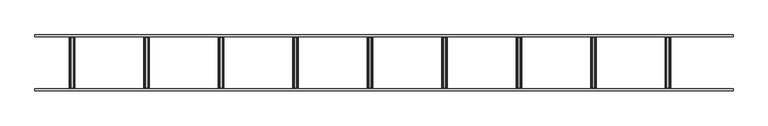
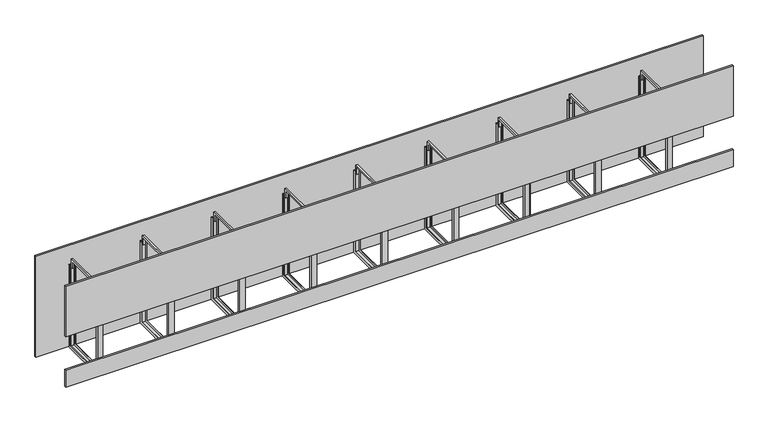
"""IFC4 building model written with IfcOpenShell, lengths in millimetres: proxy geometry, Betobeam PG : -."""

from ifc_helpers import new_model, si_unit, frame, origin, origin_with_axes, place, context, project, spatial, polyline, outline, extrude, faceted_brep, source, transform, mapped, element, save


def generic_models_2febcc6a(model_context):
    return source(origin(), model_context, "Body", "SolidModel", [
        extrude(outline(polyline([(285.0, 520.0), (285.0, 470.0), (275.0, 470.0), (275.0, 510.0), (25.0, 510.0), (25.0, 470.0), (15.0, 470.0), (15.0, 520.0), (285.0, 520.0)])), frame((3395.0, 0.0, 0.0), z_axis=(1.0, 0.0, 0.0), x_axis=(0.0, 1.0, 0.0)), (0.0, 0.0, 1.0), 10.0),
        faceted_brep([(3385.0, 290.0, 490.0), (3385.0, 275.0, 490.0), (3387.0, 275.0, 490.0), (3387.0, 288.0, 490.0), (3413.0, 288.0, 490.0), (3413.0, 275.0, 490.0), (3415.0, 275.0, 490.0), (3415.0, 290.0, 490.0), (3385.0, 290.0, 0.0), (3385.0, 10.0, 0.0), (3385.0, 10.0, 490.0), (3385.0, 25.0, 490.0), (3385.0, 25.0, 15.0), (3385.0, 275.0, 15.0), (3387.0, 275.0, 15.0), (3387.0, 25.0, 15.0), (3387.0, 25.0, 490.0), (3387.0, 12.0, 490.0), (3387.0, 12.0, 2.0), (3387.0, 288.0, 2.0), (3413.0, 288.0, 2.0), (3413.0, 12.0, 2.0), (3413.0, 12.0, 490.0), (3413.0, 25.0, 490.0), (3413.0, 25.0, 15.0), (3413.0, 275.0, 15.0), (3415.0, 275.0, 15.0), (3415.0, 25.0, 15.0), (3415.0, 25.0, 490.0), (3415.0, 10.0, 490.0), (3415.0, 10.0, 0.0), (3415.0, 290.0, 0.0)], [[[0, 1, 2, 3, 4, 5, 6, 7]], [[1, 0, 8, 9, 10, 11, 12, 13]], [[2, 1, 13, 14]], [[3, 2, 14, 15, 16, 17, 18, 19]], [[4, 3, 19, 20]], [[5, 4, 20, 21, 22, 23, 24, 25]], [[6, 5, 25, 26]], [[7, 6, 26, 27, 28, 29, 30, 31]], [[0, 7, 31, 8]], [[14, 13, 12, 15]], [[20, 19, 18, 21]], [[26, 25, 24, 27]], [[8, 31, 30, 9]], [[10, 29, 28, 23, 22, 17, 16, 11]], [[15, 12, 11, 16]], [[21, 18, 17, 22]], [[27, 24, 23, 28]], [[9, 30, 29, 10]]]),
        extrude(outline(polyline([(285.0, 520.0), (285.0, 470.0), (275.0, 470.0), (275.0, 510.0), (25.0, 510.0), (25.0, 470.0), (15.0, 470.0), (15.0, 520.0), (285.0, 520.0)])), frame((2995.0, 0.0, 0.0), z_axis=(1.0, 0.0, 0.0), x_axis=(0.0, 1.0, 0.0)), (0.0, 0.0, 1.0), 10.0),
        faceted_brep([(2985.0, 290.0, 490.0), (2985.0, 275.0, 490.0), (2987.0, 275.0, 490.0), (2987.0, 288.0, 490.0), (3013.0, 288.0, 490.0), (3013.0, 275.0, 490.0), (3015.0, 275.0, 490.0), (3015.0, 290.0, 490.0), (2985.0, 290.0, 0.0), (2985.0, 10.0, 0.0), (2985.0, 10.0, 490.0), (2985.0, 25.0, 490.0), (2985.0, 25.0, 15.0), (2985.0, 275.0, 15.0), (2987.0, 275.0, 15.0), (2987.0, 25.0, 15.0), (2987.0, 25.0, 490.0), (2987.0, 12.0, 490.0), (2987.0, 12.0, 2.0), (2987.0, 288.0, 2.0), (3013.0, 288.0, 2.0), (3013.0, 12.0, 2.0), (3013.0, 12.0, 490.0), (3013.0, 25.0, 490.0), (3013.0, 25.0, 15.0), (3013.0, 275.0, 15.0), (3015.0, 275.0, 15.0), (3015.0, 25.0, 15.0), (3015.0, 25.0, 490.0), (3015.0, 10.0, 490.0), (3015.0, 10.0, 0.0), (3015.0, 290.0, 0.0)], [[[0, 1, 2, 3, 4, 5, 6, 7]], [[1, 0, 8, 9, 10, 11, 12, 13]], [[2, 1, 13, 14]], [[3, 2, 14, 15, 16, 17, 18, 19]], [[4, 3, 19, 20]], [[5, 4, 20, 21, 22, 23, 24, 25]], [[6, 5, 25, 26]], [[7, 6, 26, 27, 28, 29, 30, 31]], [[0, 7, 31, 8]], [[14, 13, 12, 15]], [[20, 19, 18, 21]], [[26, 25, 24, 27]], [[8, 31, 30, 9]], [[10, 29, 28, 23, 22, 17, 16, 11]], [[15, 12, 11, 16]], [[21, 18, 17, 22]], [[27, 24, 23, 28]], [[9, 30, 29, 10]]]),
        extrude(outline(polyline([(285.0, 520.0), (285.0, 470.0), (275.0, 470.0), (275.0, 510.0), (25.0, 510.0), (25.0, 470.0), (15.0, 470.0), (15.0, 520.0), (285.0, 520.0)])), frame((2595.0, 0.0, 0.0), z_axis=(1.0, 0.0, 0.0), x_axis=(0.0, 1.0, 0.0)), (0.0, 0.0, 1.0), 10.0),
        faceted_brep([(2585.0, 290.0, 490.0), (2585.0, 275.0, 490.0), (2587.0, 275.0, 490.0), (2587.0, 288.0, 490.0), (2613.0, 288.0, 490.0), (2613.0, 275.0, 490.0), (2615.0, 275.0, 490.0), (2615.0, 290.0, 490.0), (2585.0, 290.0, 0.0), (2585.0, 10.0, 0.0), (2585.0, 10.0, 490.0), (2585.0, 25.0, 490.0), (2585.0, 25.0, 15.0), (2585.0, 275.0, 15.0), (2587.0, 275.0, 15.0), (2587.0, 25.0, 15.0), (2587.0, 25.0, 490.0), (2587.0, 12.0, 490.0), (2587.0, 12.0, 2.0), (2587.0, 288.0, 2.0), (2613.0, 288.0, 2.0), (2613.0, 12.0, 2.0), (2613.0, 12.0, 490.0), (2613.0, 25.0, 490.0), (2613.0, 25.0, 15.0), (2613.0, 275.0, 15.0), (2615.0, 275.0, 15.0), (2615.0, 25.0, 15.0), (2615.0, 25.0, 490.0), (2615.0, 10.0, 490.0), (2615.0, 10.0, 0.0), (2615.0, 290.0, 0.0)], [[[0, 1, 2, 3, 4, 5, 6, 7]], [[1, 0, 8, 9, 10, 11, 12, 13]], [[2, 1, 13, 14]], [[3, 2, 14, 15, 16, 17, 18, 19]], [[4, 3, 19, 20]], [[5, 4, 20, 21, 22, 23, 24, 25]], [[6, 5, 25, 26]], [[7, 6, 26, 27, 28, 29, 30, 31]], [[0, 7, 31, 8]], [[14, 13, 12, 15]], [[20, 19, 18, 21]], [[26, 25, 24, 27]], [[8, 31, 30, 9]], [[10, 29, 28, 23, 22, 17, 16, 11]], [[15, 12, 11, 16]], [[21, 18, 17, 22]], [[27, 24, 23, 28]], [[9, 30, 29, 10]]]),
        extrude(outline(polyline([(285.0, 520.0), (285.0, 470.0), (275.0, 470.0), (275.0, 510.0), (25.0, 510.0), (25.0, 470.0), (15.0, 470.0), (15.0, 520.0), (285.0, 520.0)])), frame((2195.0, 0.0, 0.0), z_axis=(1.0, 0.0, 0.0), x_axis=(0.0, 1.0, 0.0)), (0.0, 0.0, 1.0), 10.0),
        faceted_brep([(2185.0, 290.0, 490.0), (2185.0, 275.0, 490.0), (2187.0, 275.0, 490.0), (2187.0, 288.0, 490.0), (2213.0, 288.0, 490.0), (2213.0, 275.0, 490.0), (2215.0, 275.0, 490.0), (2215.0, 290.0, 490.0), (2185.0, 290.0, 0.0), (2185.0, 10.0, 0.0), (2185.0, 10.0, 490.0), (2185.0, 25.0, 490.0), (2185.0, 25.0, 15.0), (2185.0, 275.0, 15.0), (2187.0, 275.0, 15.0), (2187.0, 25.0, 15.0), (2187.0, 25.0, 490.0), (2187.0, 12.0, 490.0), (2187.0, 12.0, 2.0), (2187.0, 288.0, 2.0), (2213.0, 288.0, 2.0), (2213.0, 12.0, 2.0), (2213.0, 12.0, 490.0), (2213.0, 25.0, 490.0), (2213.0, 25.0, 15.0), (2213.0, 275.0, 15.0), (2215.0, 275.0, 15.0), (2215.0, 25.0, 15.0), (2215.0, 25.0, 490.0), (2215.0, 10.0, 490.0), (2215.0, 10.0, 0.0), (2215.0, 290.0, 0.0)], [[[0, 1, 2, 3, 4, 5, 6, 7]], [[1, 0, 8, 9, 10, 11, 12, 13]], [[2, 1, 13, 14]], [[3, 2, 14, 15, 16, 17, 18, 19]], [[4, 3, 19, 20]], [[5, 4, 20, 21, 22, 23, 24, 25]], [[6, 5, 25, 26]], [[7, 6, 26, 27, 28, 29, 30, 31]], [[0, 7, 31, 8]], [[14, 13, 12, 15]], [[20, 19, 18, 21]], [[26, 25, 24, 27]], [[8, 31, 30, 9]], [[10, 29, 28, 23, 22, 17, 16, 11]], [[15, 12, 11, 16]], [[21, 18, 17, 22]], [[27, 24, 23, 28]], [[9, 30, 29, 10]]]),
        extrude(outline(polyline([(285.0, 520.0), (285.0, 470.0), (275.0, 470.0), (275.0, 510.0), (25.0, 510.0), (25.0, 470.0), (15.0, 470.0), (15.0, 520.0), (285.0, 520.0)])), frame((1795.0, 0.0, 0.0), z_axis=(1.0, 0.0, 0.0), x_axis=(0.0, 1.0, 0.0)), (0.0, 0.0, 1.0), 10.0),
        faceted_brep([(1785.0, 290.0, 490.0), (1785.0, 275.0, 490.0), (1787.0, 275.0, 490.0), (1787.0, 288.0, 490.0), (1813.0, 288.0, 490.0), (1813.0, 275.0, 490.0), (1815.0, 275.0, 490.0), (1815.0, 290.0, 490.0), (1785.0, 290.0, 0.0), (1785.0, 10.0, 0.0), (1785.0, 10.0, 490.0), (1785.0, 25.0, 490.0), (1785.0, 25.0, 15.0), (1785.0, 275.0, 15.0), (1787.0, 275.0, 15.0), (1787.0, 25.0, 15.0), (1787.0, 25.0, 490.0), (1787.0, 12.0, 490.0), (1787.0, 12.0, 2.0), (1787.0, 288.0, 2.0), (1813.0, 288.0, 2.0), (1813.0, 12.0, 2.0), (1813.0, 12.0, 490.0), (1813.0, 25.0, 490.0), (1813.0, 25.0, 15.0), (1813.0, 275.0, 15.0), (1815.0, 275.0, 15.0), (1815.0, 25.0, 15.0), (1815.0, 25.0, 490.0), (1815.0, 10.0, 490.0), (1815.0, 10.0, 0.0), (1815.0, 290.0, 0.0)], [[[0, 1, 2, 3, 4, 5, 6, 7]], [[1, 0, 8, 9, 10, 11, 12, 13]], [[2, 1, 13, 14]], [[3, 2, 14, 15, 16, 17, 18, 19]], [[4, 3, 19, 20]], [[5, 4, 20, 21, 22, 23, 24, 25]], [[6, 5, 25, 26]], [[7, 6, 26, 27, 28, 29, 30, 31]], [[0, 7, 31, 8]], [[14, 13, 12, 15]], [[20, 19, 18, 21]], [[26, 25, 24, 27]], [[8, 31, 30, 9]], [[10, 29, 28, 23, 22, 17, 16, 11]], [[15, 12, 11, 16]], [[21, 18, 17, 22]], [[27, 24, 23, 28]], [[9, 30, 29, 10]]]),
        extrude(outline(polyline([(285.0, 520.0), (285.0, 470.0), (275.0, 470.0), (275.0, 510.0), (25.0, 510.0), (25.0, 470.0), (15.0, 470.0), (15.0, 520.0), (285.0, 520.0)])), frame((1395.0, 0.0, 0.0), z_axis=(1.0, 0.0, 0.0), x_axis=(0.0, 1.0, 0.0)), (0.0, 0.0, 1.0), 10.0),
        faceted_brep([(1385.0, 290.0, 490.0), (1385.0, 275.0, 490.0), (1387.0, 275.0, 490.0), (1387.0, 288.0, 490.0), (1413.0, 288.0, 490.0), (1413.0, 275.0, 490.0), (1415.0, 275.0, 490.0), (1415.0, 290.0, 490.0), (1385.0, 290.0, 0.0), (1385.0, 10.0, 0.0), (1385.0, 10.0, 490.0), (1385.0, 25.0, 490.0), (1385.0, 25.0, 15.0), (1385.0, 275.0, 15.0), (1387.0, 275.0, 15.0), (1387.0, 25.0, 15.0), (1387.0, 25.0, 490.0), (1387.0, 12.0, 490.0), (1387.0, 12.0, 2.0), (1387.0, 288.0, 2.0), (1413.0, 288.0, 2.0), (1413.0, 12.0, 2.0), (1413.0, 12.0, 490.0), (1413.0, 25.0, 490.0), (1413.0, 25.0, 15.0), (1413.0, 275.0, 15.0), (1415.0, 275.0, 15.0), (1415.0, 25.0, 15.0), (1415.0, 25.0, 490.0), (1415.0, 10.0, 490.0), (1415.0, 10.0, 0.0), (1415.0, 290.0, 0.0)], [[[0, 1, 2, 3, 4, 5, 6, 7]], [[1, 0, 8, 9, 10, 11, 12, 13]], [[2, 1, 13, 14]], [[3, 2, 14, 15, 16, 17, 18, 19]], [[4, 3, 19, 20]], [[5, 4, 20, 21, 22, 23, 24, 25]], [[6, 5, 25, 26]], [[7, 6, 26, 27, 28, 29, 30, 31]], [[0, 7, 31, 8]], [[14, 13, 12, 15]], [[20, 19, 18, 21]], [[26, 25, 24, 27]], [[8, 31, 30, 9]], [[10, 29, 28, 23, 22, 17, 16, 11]], [[15, 12, 11, 16]], [[21, 18, 17, 22]], [[27, 24, 23, 28]], [[9, 30, 29, 10]]]),
        extrude(outline(polyline([(285.0, 520.0), (285.0, 470.0), (275.0, 470.0), (275.0, 510.0), (25.0, 510.0), (25.0, 470.0), (15.0, 470.0), (15.0, 520.0), (285.0, 520.0)])), frame((995.0, 0.0, 0.0), z_axis=(1.0, 0.0, 0.0), x_axis=(0.0, 1.0, 0.0)), (0.0, 0.0, 1.0), 10.0),
        faceted_brep([(985.0, 290.0, 490.0), (985.0, 275.0, 490.0), (987.0, 275.0, 490.0), (987.0, 288.0, 490.0), (1013.0, 288.0, 490.0), (1013.0, 275.0, 490.0), (1015.0, 275.0, 490.0), (1015.0, 290.0, 490.0), (985.0, 290.0, 0.0), (985.0, 10.0, 0.0), (985.0, 10.0, 490.0), (985.0, 25.0, 490.0), (985.0, 25.0, 15.0), (985.0, 275.0, 15.0), (987.0, 275.0, 15.0), (987.0, 25.0, 15.0), (987.0, 25.0, 490.0), (987.0, 12.0, 490.0), (987.0, 12.0, 2.0), (987.0, 288.0, 2.0), (1013.0, 288.0, 2.0), (1013.0, 12.0, 2.0), (1013.0, 12.0, 490.0), (1013.0, 25.0, 490.0), (1013.0, 25.0, 15.0), (1013.0, 275.0, 15.0), (1015.0, 275.0, 15.0), (1015.0, 25.0, 15.0), (1015.0, 25.0, 490.0), (1015.0, 10.0, 490.0), (1015.0, 10.0, 0.0), (1015.0, 290.0, 0.0)], [[[0, 1, 2, 3, 4, 5, 6, 7]], [[1, 0, 8, 9, 10, 11, 12, 13]], [[2, 1, 13, 14]], [[3, 2, 14, 15, 16, 17, 18, 19]], [[4, 3, 19, 20]], [[5, 4, 20, 21, 22, 23, 24, 25]], [[6, 5, 25, 26]], [[7, 6, 26, 27, 28, 29, 30, 31]], [[0, 7, 31, 8]], [[14, 13, 12, 15]], [[20, 19, 18, 21]], [[26, 25, 24, 27]], [[8, 31, 30, 9]], [[10, 29, 28, 23, 22, 17, 16, 11]], [[15, 12, 11, 16]], [[21, 18, 17, 22]], [[27, 24, 23, 28]], [[9, 30, 29, 10]]]),
        extrude(outline(polyline([(285.0, 520.0), (285.0, 470.0), (275.0, 470.0), (275.0, 510.0), (25.0, 510.0), (25.0, 470.0), (15.0, 470.0), (15.0, 520.0), (285.0, 520.0)])), frame((595.0, 0.0, 0.0), z_axis=(1.0, 0.0, 0.0), x_axis=(0.0, 1.0, 0.0)), (0.0, 0.0, 1.0), 10.0),
        faceted_brep([(585.0, 290.0, 490.0), (585.0, 275.0, 490.0), (587.0, 275.0, 490.0), (587.0, 288.0, 490.0), (613.0, 288.0, 490.0), (613.0, 275.0, 490.0), (615.0, 275.0, 490.0), (615.0, 290.0, 490.0), (585.0, 290.0, 0.0), (585.0, 10.0, 0.0), (585.0, 10.0, 490.0), (585.0, 25.0, 490.0), (585.0, 25.0, 15.0), (585.0, 275.0, 15.0), (587.0, 275.0, 15.0), (587.0, 25.0, 15.0), (587.0, 25.0, 490.0), (587.0, 12.0, 490.0), (587.0, 12.0, 2.0), (587.0, 288.0, 2.0), (613.0, 288.0, 2.0), (613.0, 12.0, 2.0), (613.0, 12.0, 490.0), (613.0, 25.0, 490.0), (613.0, 25.0, 15.0), (613.0, 275.0, 15.0), (615.0, 275.0, 15.0), (615.0, 25.0, 15.0), (615.0, 25.0, 490.0), (615.0, 10.0, 490.0), (615.0, 10.0, 0.0), (615.0, 290.0, 0.0)], [[[0, 1, 2, 3, 4, 5, 6, 7]], [[1, 0, 8, 9, 10, 11, 12, 13]], [[2, 1, 13, 14]], [[3, 2, 14, 15, 16, 17, 18, 19]], [[4, 3, 19, 20]], [[5, 4, 20, 21, 22, 23, 24, 25]], [[6, 5, 25, 26]], [[7, 6, 26, 27, 28, 29, 30, 31]], [[0, 7, 31, 8]], [[14, 13, 12, 15]], [[20, 19, 18, 21]], [[26, 25, 24, 27]], [[8, 31, 30, 9]], [[10, 29, 28, 23, 22, 17, 16, 11]], [[15, 12, 11, 16]], [[21, 18, 17, 22]], [[27, 24, 23, 28]], [[9, 30, 29, 10]]]),
        extrude(outline(polyline([(285.0, 520.0), (285.0, 470.0), (275.0, 470.0), (275.0, 510.0), (25.0, 510.0), (25.0, 470.0), (15.0, 470.0), (15.0, 520.0), (285.0, 520.0)])), frame((195.0, 0.0, 0.0), z_axis=(1.0, 0.0, 0.0), x_axis=(0.0, 1.0, 0.0)), (0.0, 0.0, 1.0), 10.0),
        faceted_brep([(185.0, 290.0, 490.0), (185.0, 275.0, 490.0), (187.0, 275.0, 490.0), (187.0, 288.0, 490.0), (213.0, 288.0, 490.0), (213.0, 275.0, 490.0), (215.0, 275.0, 490.0), (215.0, 290.0, 490.0), (185.0, 290.0, 0.0), (185.0, 10.0, 0.0), (185.0, 10.0, 490.0), (185.0, 25.0, 490.0), (185.0, 25.0, 15.0), (185.0, 275.0, 15.0), (187.0, 275.0, 15.0), (187.0, 25.0, 15.0), (187.0, 25.0, 490.0), (187.0, 12.0, 490.0), (187.0, 12.0, 2.0), (187.0, 288.0, 2.0), (213.0, 288.0, 2.0), (213.0, 12.0, 2.0), (213.0, 12.0, 490.0), (213.0, 25.0, 490.0), (213.0, 25.0, 15.0), (213.0, 275.0, 15.0), (215.0, 275.0, 15.0), (215.0, 25.0, 15.0), (215.0, 25.0, 490.0), (215.0, 10.0, 490.0), (215.0, 10.0, 0.0), (215.0, 290.0, 0.0)], [[[0, 1, 2, 3, 4, 5, 6, 7]], [[1, 0, 8, 9, 10, 11, 12, 13]], [[2, 1, 13, 14]], [[3, 2, 14, 15, 16, 17, 18, 19]], [[4, 3, 19, 20]], [[5, 4, 20, 21, 22, 23, 24, 25]], [[6, 5, 25, 26]], [[7, 6, 26, 27, 28, 29, 30, 31]], [[0, 7, 31, 8]], [[14, 13, 12, 15]], [[20, 19, 18, 21]], [[26, 25, 24, 27]], [[8, 31, 30, 9]], [[10, 29, 28, 23, 22, 17, 16, 11]], [[15, 12, 11, 16]], [[21, 18, 17, 22]], [[27, 24, 23, 28]], [[9, 30, 29, 10]]]),
        extrude(outline(polyline([(3750.0, 10.0), (3750.0, 0.0), (0.0, 0.0), (0.0, 10.0), (3750.0, 10.0)])), frame((0.0, 0.0, 300.0), z_axis=(0.0, 0.0, 1.0), x_axis=(1.0, 0.0, 0.0)), (0.0, 0.0, 1.0), 300.0),
        extrude(outline(polyline([(0.0, -10.0), (0.0, 0.0), (3750.0, 0.0), (3750.0, -10.0), (0.0, -10.0)])), frame((3750.0, 290.0, 0.0), z_axis=(0.0, -3.634372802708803e-12, 1.0), x_axis=(-1.0, 0.0, 0.0)), (0.0, 0.0, 1.0), 600.0),
        extrude(outline(polyline([(3750.0, 10.0), (3750.0, 0.0), (0.0, 0.0), (0.0, 10.0), (3750.0, 10.0)])), origin_with_axes(), (0.0, 0.0, 1.0), 100.0),
    ])


if __name__ == "__main__":
    model = new_model("IFC4")
    model_context = context("Model", 3, world=origin())
    ifc_project = project(units=[si_unit("LENGTHUNIT", "METRE", prefix="MILLI")], contexts=[model_context])
    site = spatial("IfcSite", under=ifc_project)
    building = spatial("IfcBuilding", under=site)
    placement = place(None, origin())
    generic_models_shape = generic_models_2febcc6a(model_context)
    element("IfcBuildingElementProxy", 1, Name="Betobeam PG : -", ObjectType="Betobeam PG : -", at=placement, inside=building, context=model_context, shape_type="MappedRepresentation", body=[
        mapped(generic_models_shape, transform((0.0, 0.0, 0.0), x_axis=(1.0, 0.0, 0.0), y_axis=(0.0, 1.0, 0.0), z_axis=(0.0, 0.0, 1.0))),
    ])
    save(model, "model.ifc")
